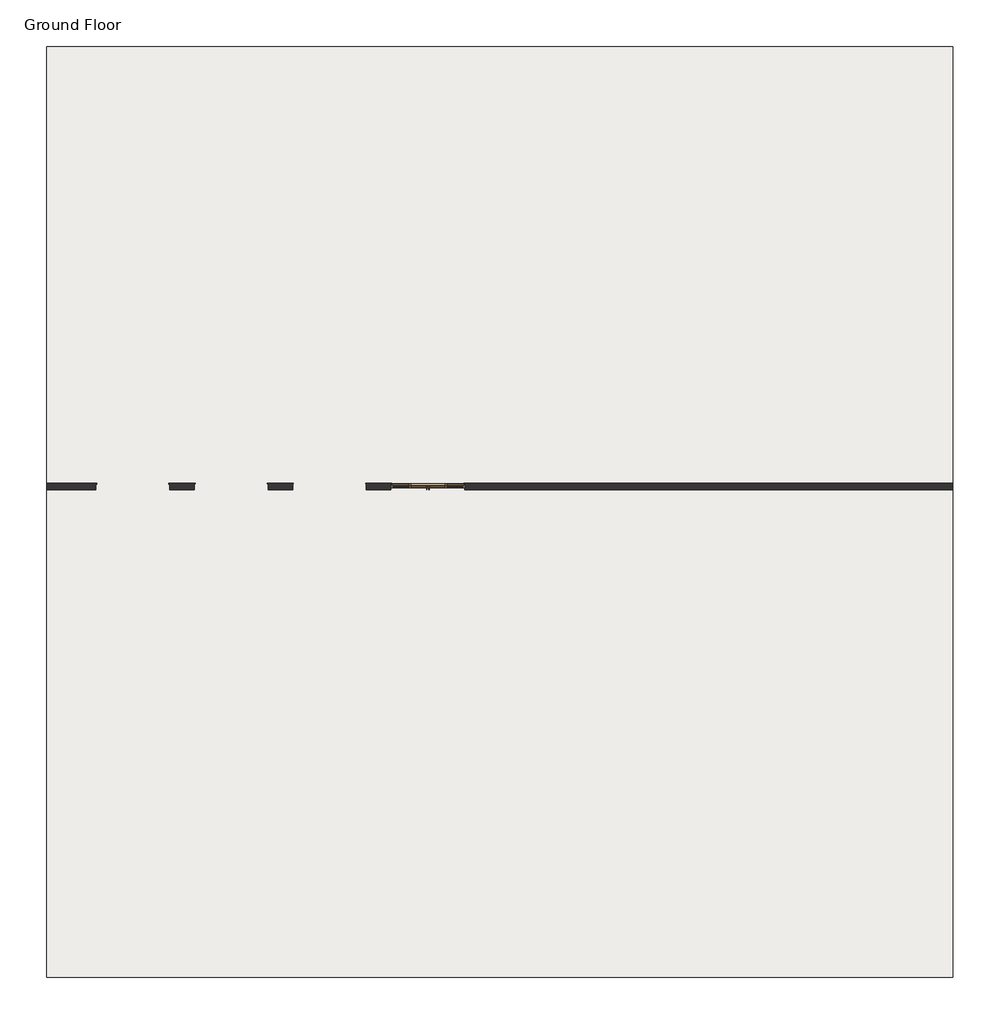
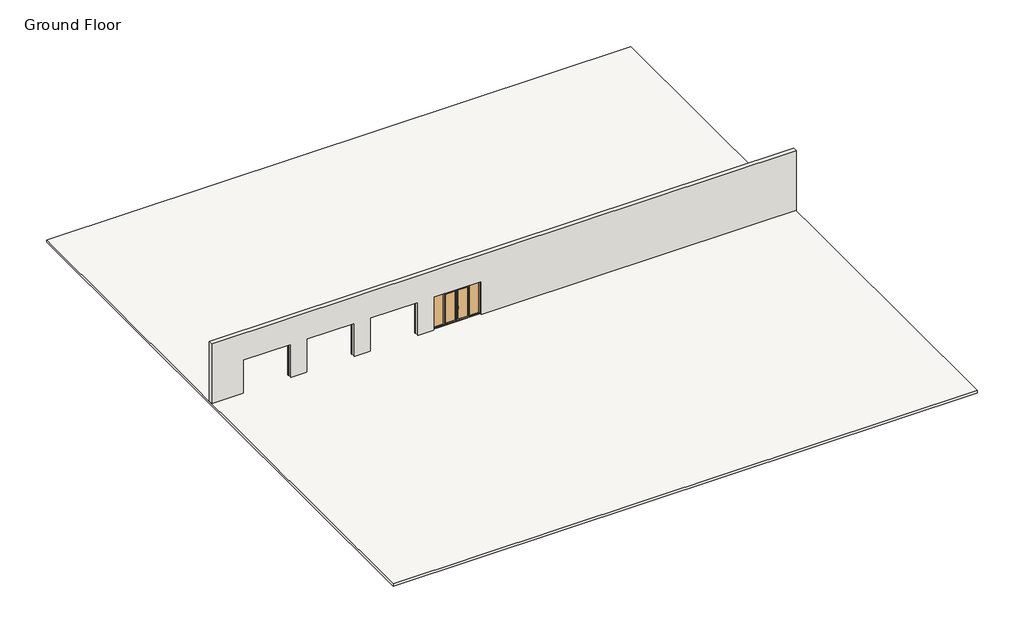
# One storey, incomplete: 1 door, 1 slab, 1 wall.
"""IFC4 building model written with IfcOpenShell, lengths in millimetres."""

from ifc_helpers import new_model, si_unit, frame, origin, place, context, project, spatial, polyline, outline, extrude, faceted_brep, transform, mapped, element, save
from components import door_8a70e2ef

model = new_model("IFC4")

# Units and contexts
model_context = context("Model", 3, world=origin())
ifc_project = project(units=[si_unit("LENGTHUNIT", "METRE", prefix="MILLI")], contexts=[model_context])

# Site, building, storey
site = spatial("IfcSite", under=ifc_project)
building = spatial("IfcBuilding", under=site)
storey = spatial("IfcBuildingStorey", under=building, Name="Ground Floor", Elevation=0.0)

# Door
placement = place(None, origin())
door_shape = door_8a70e2ef(model_context)
element("IfcDoor", 1, ObjectType="3_pod-kli_2+2fix : 3_pod-kli_2+2fix", at=placement, inside=storey, context=model_context, shape_type="MappedRepresentation", body=[
    mapped(door_shape, transform((-2690.0047047, 9.5426689, 0.0), x_axis=(-1.0, 0.0, 0.0), y_axis=(0.0, -1.0, 0.0), z_axis=(0.0, 0.0, 1.0))),
])

# Slab
element("IfcSlab", 2, ObjectType="Generic 150mm", at=placement, inside=storey, context=model_context, shape_type="SweptSolid", body=[
    extrude(outline(polyline([(18739.9952953, 17975.9429688), (18739.9952953, -20024.0570312), (-18260.0047047, -20024.0570312), (-18260.0047047, 17975.9429688), (18739.9952953, 17975.9429688)])), frame((0.0, 0.0, -150.0), z_axis=(0.0, 0.0, 1.0), x_axis=(1.0, 0.0, 0.0)), (0.0, 0.0, 1.0), 150.0),
])

# Wall
element("IfcWall", 3, ObjectType="Double brick - 270", at=placement, inside=storey, context=model_context, shape_type="Brep", body=[
    faceted_brep([(18739.9952953, -125.4573311, 0.0), (18739.9952953, -125.4573311, 4000.0), (-18260.0047047, -125.4573311, 4000.0), (-18260.0047047, -125.4573311, 0.0), (-16260.0047047, -125.4573311, 0.0), (-16260.0047047, -125.4573311, 2220.0000012), (-13240.0047047, -125.4573311, 2220.0000012), (-13240.0047047, -125.4573311, 0.0), (-12240.0047047, -125.4573311, 0.0), (-12240.0047047, -125.4573311, 2220.0), (-9220.0047047, -125.4573311, 2220.0), (-9220.0047047, -125.4573311, 0.0), (-8220.0047047, -125.4573311, 0.0), (-8220.0047047, -125.4573311, 2220.0000012), (-5200.0047047, -125.4573311, 2220.0000012), (-5200.0047047, -125.4573311, 0.0), (-4200.0047047, -125.4573311, 0.0), (-4200.0047047, -125.4573311, 2220.0), (-1180.0047047, -125.4573311, 2220.0), (-1180.0047047, -125.4573311, 0.0), (18739.9952953, 144.5426689, 4000.0), (18739.9952953, 144.5426689, 0.0), (-1220.0047047, 144.5426689, 0.0), (-1220.0047047, 144.5426689, 2180.0), (-4160.0047047, 144.5426689, 2180.0), (-4160.0047047, 144.5426689, 0.0), (-5240.0047047, 144.5426689, 0.0), (-5240.0047047, 144.5426689, 2180.0000012), (-8180.0047047, 144.5426689, 2180.0000012), (-8180.0047047, 144.5426689, 0.0), (-9260.0047047, 144.5426689, 0.0), (-9260.0047047, 144.5426689, 2180.0), (-12200.0047047, 144.5426689, 2180.0), (-12200.0047047, 144.5426689, 0.0), (-13280.0047047, 144.5426689, 0.0), (-13280.0047047, 144.5426689, 2180.0000012), (-16220.0047047, 144.5426689, 2180.0000012), (-16220.0047047, 144.5426689, 0.0), (-18260.0047047, 144.5426689, 0.0), (-18260.0047047, 144.5426689, 4000.0), (-1180.0047047, 120.5426689, 0.0), (-1220.0047047, 120.5426689, 0.0), (-16220.0047047, 100.5426689, 0.0), (-16260.0047047, 100.5426689, 0.0), (-13240.0047047, 100.5426689, 0.0), (-13280.0047047, 100.5426689, 0.0), (-12200.0047047, 120.5426689, 0.0), (-12240.0047047, 120.5426689, 0.0), (-9220.0047047, 120.5426689, 0.0), (-9260.0047047, 120.5426689, 0.0), (-8180.0047047, 120.5426689, 0.0), (-8220.0047047, 120.5426689, 0.0), (-5200.0047047, 120.5426689, 0.0), (-5240.0047047, 120.5426689, 0.0), (-4160.0047047, 120.5426689, 0.0), (-4200.0047047, 120.5426689, 0.0), (-13240.0047047, 100.5426689, 2220.0000012), (-16260.0047047, 100.5426689, 2220.0000012), (-16220.0047047, 100.5426689, 2180.0000012), (-13280.0047047, 100.5426689, 2180.0000012), (-9220.0047047, 120.5426689, 2220.0), (-12240.0047047, 120.5426689, 2220.0), (-12200.0047047, 120.5426689, 2180.0), (-9260.0047047, 120.5426689, 2180.0), (-5200.0047047, 120.5426689, 2220.0000012), (-8220.0047047, 120.5426689, 2220.0000012), (-8180.0047047, 120.5426689, 2180.0000012), (-5240.0047047, 120.5426689, 2180.0000012), (-4200.0047047, 120.5426689, 2220.0), (-4160.0047047, 120.5426689, 2180.0), (-1220.0047047, 120.5426689, 2180.0), (-1180.0047047, 120.5426689, 2220.0)], [[[0, 1, 2, 3, 4, 5, 6, 7, 8, 9, 10, 11, 12, 13, 14, 15, 16, 17, 18, 19]], [[20, 21, 22, 23, 24, 25, 26, 27, 28, 29, 30, 31, 32, 33, 34, 35, 36, 37, 38, 39]], [[21, 0, 19, 40, 41, 22]], [[3, 38, 37, 42, 43, 4]], [[44, 45, 34, 33, 46, 47, 8, 7]], [[48, 49, 30, 29, 50, 51, 12, 11]], [[52, 53, 26, 25, 54, 55, 16, 15]], [[1, 0, 21, 20]], [[2, 1, 20, 39]], [[3, 2, 39, 38]], [[56, 57, 43, 42, 58, 59, 45, 44]], [[57, 56, 6, 5]], [[56, 44, 7, 6]], [[43, 57, 5, 4]], [[45, 59, 35, 34]], [[58, 42, 37, 36]], [[59, 58, 36, 35]], [[60, 61, 47, 46, 62, 63, 49, 48]], [[61, 60, 10, 9]], [[60, 48, 11, 10]], [[47, 61, 9, 8]], [[49, 63, 31, 30]], [[62, 46, 33, 32]], [[63, 62, 32, 31]], [[64, 65, 51, 50, 66, 67, 53, 52]], [[65, 64, 14, 13]], [[64, 52, 15, 14]], [[51, 65, 13, 12]], [[53, 67, 27, 26]], [[66, 50, 29, 28]], [[67, 66, 28, 27]], [[68, 55, 54, 69, 70, 41, 40, 71]], [[68, 71, 18, 17]], [[71, 40, 19, 18]], [[55, 68, 17, 16]], [[41, 70, 23, 22]], [[69, 54, 25, 24]], [[70, 69, 24, 23]]]),
])

save(model, "model.ifc")
